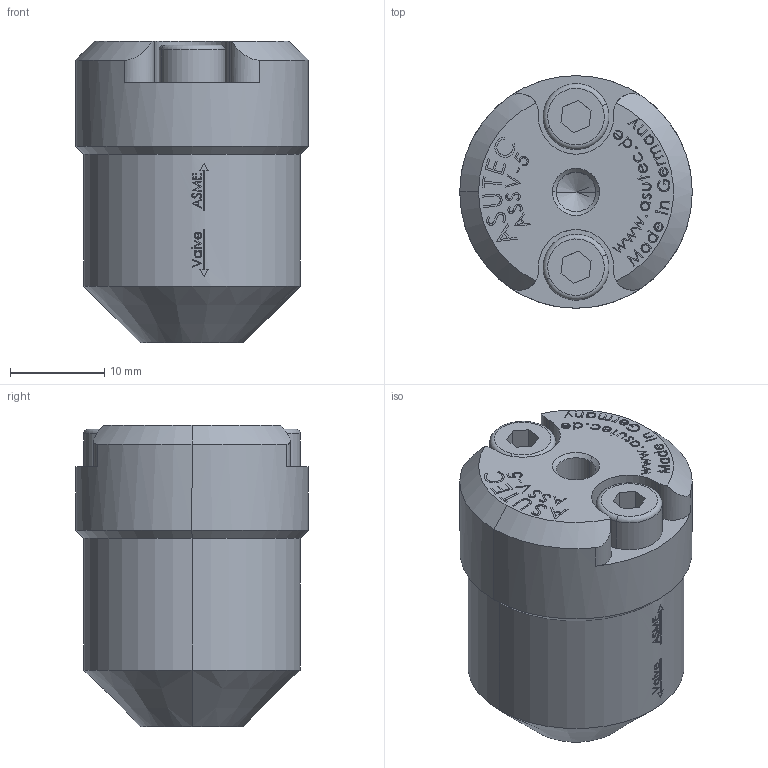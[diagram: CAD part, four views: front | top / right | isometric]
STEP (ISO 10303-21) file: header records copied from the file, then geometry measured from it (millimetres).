
FILE_DESCRIPTION (( 'STEP AP203' ), '1' );
FILE_NAME ('Asutec_ASSV-5.STEP', '2026-08-07T14:42:19', ( '' ), ( '' ), 'SwSTEP 2.0', 'SolidWorks 2020', '' );
FILE_SCHEMA (( 'CONFIG_CONTROL_DESIGN' ));
Length unit declared in the file: millimetre
Products named in the file (1): Asutec_ASSV-5
Bounding box: 24.7 x 24.7 x 32 mm (x, y, z)
Volume: 12154.7 mm3; surface area: 3587.4 mm2
Topology: 1 solids, 1 shells, 700 faces, 1871 edges, 1239 vertices
Faces by surface type: plane 385, bspline 264, cylinder 32, cone 15, torus 4
Entity records: 33814 total; most frequent: CARTESIAN_POINT 18130, ORIENTED_EDGE 3734, DIRECTION 2242, EDGE_CURVE 1867, VERTEX_POINT 1239, LINE 1186, VECTOR 1186, EDGE_LOOP 770
